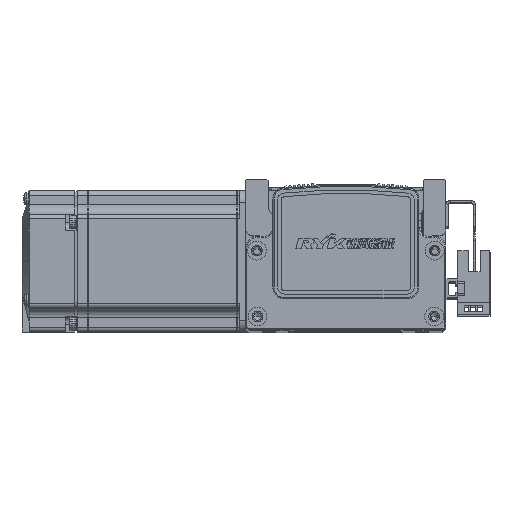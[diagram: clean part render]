
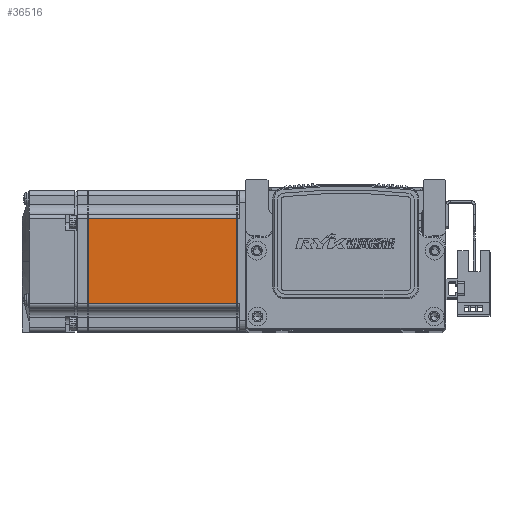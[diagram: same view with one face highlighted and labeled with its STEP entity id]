
A CAD part, top view. The second image highlights one B-rep face of the part: STEP entity #36516.
In plain terms, the highlighted planar face has unit normal (0, 0, 1) as drawn and (0, 0, -1) by its records, which use the part's own axes.
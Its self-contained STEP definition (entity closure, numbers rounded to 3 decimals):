
#436 = EDGE_CURVE ( 'NONE', #5785, #5758, #71998, .T. ) ;
#451 = EDGE_CURVE ( 'NONE', #5758, #5760, #71956, .T. ) ;
#487 = EDGE_CURVE ( 'NONE', #5760, #5860, #72069, .T. ) ;
#500 = EDGE_CURVE ( 'NONE', #5860, #5785, #72051, .T. ) ;
#2962 = FACE_OUTER_BOUND ( 'NONE', #13903, .T. ) ;
#5758 = VERTEX_POINT ( 'NONE', #35053 ) ;
#5760 = VERTEX_POINT ( 'NONE', #35016 ) ;
#5785 = VERTEX_POINT ( 'NONE', #35009 ) ;
#5860 = VERTEX_POINT ( 'NONE', #35171 ) ;
#7615 = AXIS2_PLACEMENT_3D ( 'NONE', #25736, #25703, #25744 ) ;
#13903 = EDGE_LOOP ( 'NONE', ( #54912, #54623, #54640, #54683 ) ) ;
#25703 = DIRECTION ( 'NONE',  ( 0., 0., -1. ) ) ;
#25736 = CARTESIAN_POINT ( 'NONE',  ( -6.5, 25., -30. ) ) ;
#25743 = PLANE ( 'NONE',  #7615 ) ;
#25744 = DIRECTION ( 'NONE',  ( -1., 0., 0. ) ) ;
#35009 = CARTESIAN_POINT ( 'NONE',  ( -7.75, -18., -30. ) ) ;
#35016 = CARTESIAN_POINT ( 'NONE',  ( -70.95, 18., -30. ) ) ;
#35053 = CARTESIAN_POINT ( 'NONE',  ( -70.95, -18., -30. ) ) ;
#35171 = CARTESIAN_POINT ( 'NONE',  ( -7.75, 18., -30. ) ) ;
#36516 = ADVANCED_FACE ( 'NONE', ( #2962 ), #25743, .T. ) ;
#54623 = ORIENTED_EDGE ( 'NONE', *, *, #436, .T. ) ;
#54640 = ORIENTED_EDGE ( 'NONE', *, *, #451, .T. ) ;
#54683 = ORIENTED_EDGE ( 'NONE', *, *, #487, .T. ) ;
#54912 = ORIENTED_EDGE ( 'NONE', *, *, #500, .T. ) ;
#57200 = CARTESIAN_POINT ( 'NONE',  ( -6.5, -18., -30. ) ) ;
#57208 = DIRECTION ( 'NONE',  ( -1., 0., 0. ) ) ;
#57280 = CARTESIAN_POINT ( 'NONE',  ( -70.95, 25., -30. ) ) ;
#57281 = DIRECTION ( 'NONE',  ( 0., 1., 0. ) ) ;
#57367 = CARTESIAN_POINT ( 'NONE',  ( -7.75, 25., -30. ) ) ;
#57373 = DIRECTION ( 'NONE',  ( 1., 0., 0. ) ) ;
#57374 = DIRECTION ( 'NONE',  ( 0., -1., 0. ) ) ;
#57376 = CARTESIAN_POINT ( 'NONE',  ( -6.5, 18., -30. ) ) ;
#71956 = LINE ( 'NONE', #57280, #72004 ) ;
#71991 = VECTOR ( 'NONE', #57208, 1000. ) ;
#71998 = LINE ( 'NONE', #57200, #71991 ) ;
#72004 = VECTOR ( 'NONE', #57281, 1000. ) ;
#72039 = VECTOR ( 'NONE', #57374, 1000. ) ;
#72050 = VECTOR ( 'NONE', #57373, 1000. ) ;
#72051 = LINE ( 'NONE', #57367, #72039 ) ;
#72069 = LINE ( 'NONE', #57376, #72050 ) ;
